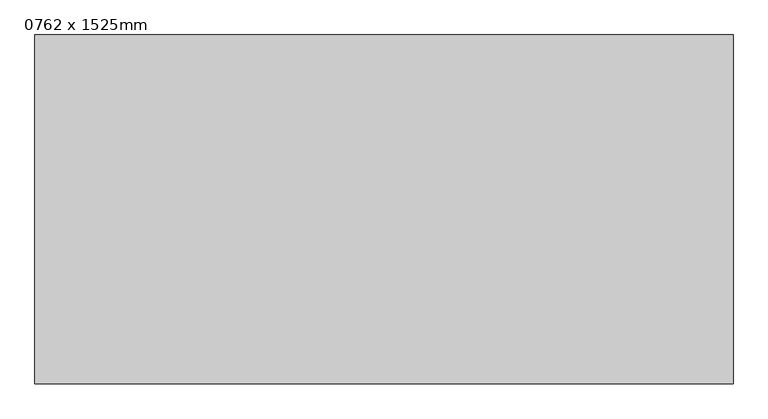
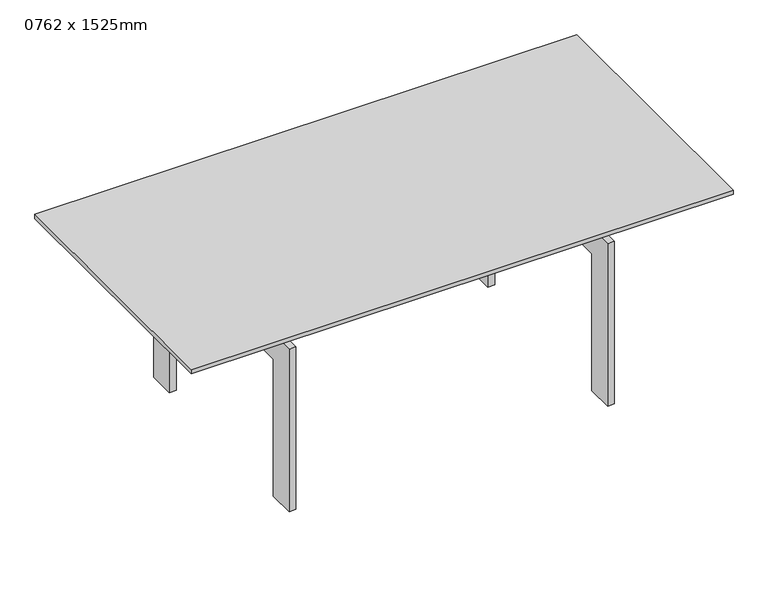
"""IFC4 building model written with IfcOpenShell, lengths in millimetres: furniture geometry, 테이블-식탁 : 0762 x 1525mm."""

from ifc_helpers import new_model, si_unit, frame, origin, place, context, project, spatial, polyline, outline, extrude, source, transform, mapped, element, save


def furniture_0762_x_1525mm_a1e3a7ba(model_context):
    return source(origin(), model_context, "Body", "SweptSolid", [
        extrude(outline(polyline([(679.1657667, 297.7823857), (679.1657667, 272.3823857), (-642.6342333, 272.3823857), (-642.6342333, 297.7823857), (679.1657667, 297.7823857)])), frame((0.0, 0.0, 483.8), z_axis=(0.0, 0.0, 1.0), x_axis=(1.0, 0.0, 0.0)), (0.0, 0.0, 1.0), 63.5),
        extrude(outline(polyline([(679.1657667, -82.5889222), (679.1657667, -107.9889222), (-642.6342333, -107.9889222), (-642.6342333, -82.5889222), (679.1657667, -82.5889222)])), frame((0.0, 0.0, 483.8), z_axis=(0.0, 0.0, 1.0), x_axis=(1.0, 0.0, 0.0)), (0.0, 0.0, 1.0), 63.5),
        extrude(outline(polyline([(425.4110778, 0.0), (349.2110778, 0.0), (349.2110778, 407.6), (-158.7889222, 407.6), (-158.7889222, 0.0), (-234.9889222, 0.0), (-234.9889222, 483.8), (425.4110778, 483.8), (425.4110778, 0.0)])), frame((456.9157667, 0.0, 0.0), z_axis=(1.0, 0.0, 0.0), x_axis=(0.0, 1.0, 0.0)), (0.0, 0.0, 1.0), 19.05),
        extrude(outline(polyline([(425.4110778, 483.8), (425.4110778, 0.0), (349.2110778, 0.0), (349.2110778, 407.6), (-158.7889222, 407.6), (-158.7889222, 0.0), (-234.9889222, 0.0), (-234.9889222, 483.8), (425.4110778, 483.8)])), frame((-439.4342333, 0.0, 0.0), z_axis=(1.0, 0.0, 0.0), x_axis=(0.0, 1.0, 0.0)), (0.0, 0.0, 1.0), 19.05),
        extrude(outline(polyline([(780.7657667, 476.2110778), (780.7657667, -285.7889222), (-744.2342333, -285.7889222), (-744.2342333, 476.2110778), (780.7657667, 476.2110778)])), frame((0.0, 0.0, 547.3), z_axis=(0.0, 0.0, 1.0), x_axis=(1.0, 0.0, 0.0)), (0.0, 0.0, 1.0), 12.7),
    ])


if __name__ == "__main__":
    model = new_model("IFC4")
    model_context = context("Model", 3, world=origin())
    ifc_project = project(units=[si_unit("LENGTHUNIT", "METRE", prefix="MILLI")], contexts=[model_context])
    site = spatial("IfcSite", under=ifc_project)
    building = spatial("IfcBuilding", under=site)
    placement = place(None, origin())
    furniture_0762_x_1525mm_shape = furniture_0762_x_1525mm_a1e3a7ba(model_context)
    element("IfcFurniture", 1, ObjectType="테이블-식탁 : 0762 x 1525mm", at=placement, inside=building, context=model_context, shape_type="MappedRepresentation", body=[
        mapped(furniture_0762_x_1525mm_shape, transform((0.0, 0.0, 0.0), x_axis=(1.0, 0.0, 0.0), y_axis=(0.0, 1.0, 0.0), z_axis=(0.0, 0.0, 1.0))),
    ])
    save(model, "model.ifc")
